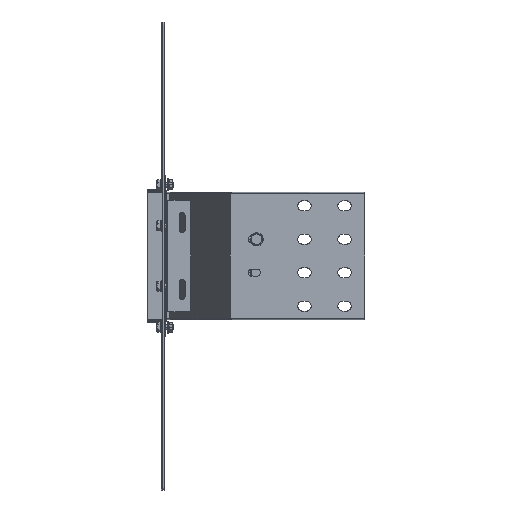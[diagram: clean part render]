
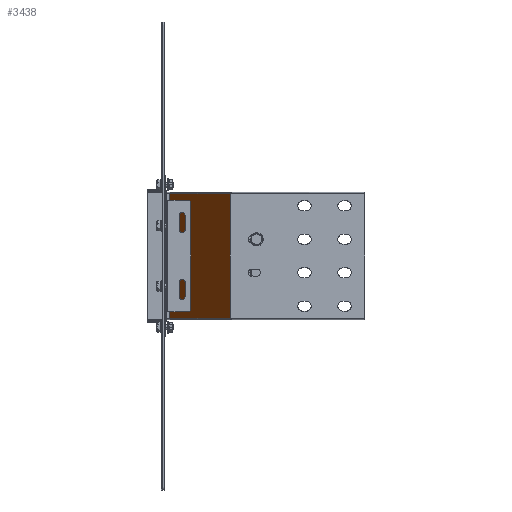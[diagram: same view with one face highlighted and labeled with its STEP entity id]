
A CAD part, front view. The second image highlights one B-rep face of the part: STEP entity #3438.
In plain terms, the highlighted planar face has unit normal (-0.918, -0.397, 0).
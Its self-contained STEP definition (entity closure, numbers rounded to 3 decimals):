
#3430=AXIS2_PLACEMENT_3D('Plane Axis2P3D',#3427,#3428,#3429) ;
#1842=CARTESIAN_POINT('Vertex',(98.751,-216.9,-93.1)) ;
#1856=CARTESIAN_POINT('Vertex',(98.751,-216.9,93.1)) ;
#1859=CARTESIAN_POINT('Line Origine',(98.751,-216.9,0.)) ;
#2644=CARTESIAN_POINT('Vertex',(8.751,-8.74,93.1)) ;
#2647=CARTESIAN_POINT('Line Origine',(53.256,-111.674,93.1)) ;
#2754=CARTESIAN_POINT('Vertex',(8.751,-8.74,-93.1)) ;
#2789=CARTESIAN_POINT('Line Origine',(53.256,-111.674,-93.1)) ;
#2831=CARTESIAN_POINT('Line Origine',(8.751,-8.74,0.)) ;
#3427=CARTESIAN_POINT('Axis2P3D Location',(99.247,-218.046,-93.1)) ;
#1860=DIRECTION('Vector Direction',(0.,0.,1.)) ;
#2648=DIRECTION('Vector Direction',(0.397,-0.918,0.)) ;
#2790=DIRECTION('Vector Direction',(0.397,-0.918,0.)) ;
#2832=DIRECTION('Vector Direction',(0.,0.,1.)) ;
#3428=DIRECTION('Axis2P3D Direction',(-0.918,-0.397,0.)) ;
#3429=DIRECTION('Axis2P3D XDirection',(0.,0.,1.)) ;
#1861=VECTOR('Line Direction',#1860,1.) ;
#2649=VECTOR('Line Direction',#2648,1.) ;
#2791=VECTOR('Line Direction',#2790,1.) ;
#2833=VECTOR('Line Direction',#2832,1.) ;
#3433=ORIENTED_EDGE('',*,*,#2651,.T.) ;
#3434=ORIENTED_EDGE('',*,*,#2835,.F.) ;
#3435=ORIENTED_EDGE('',*,*,#2793,.F.) ;
#3436=ORIENTED_EDGE('',*,*,#1863,.T.) ;
#3438=ADVANCED_FACE('N',(#3437),#3431,.T.) ;
#1863=EDGE_CURVE('',#1843,#1857,#1862,.T.) ;
#2651=EDGE_CURVE('',#1857,#2645,#2650,.F.) ;
#2793=EDGE_CURVE('',#1843,#2755,#2792,.F.) ;
#2835=EDGE_CURVE('',#2755,#2645,#2834,.T.) ;
#3432=EDGE_LOOP('',(#3433,#3434,#3435,#3436)) ;
#3437=FACE_OUTER_BOUND('',#3432,.T.) ;
#1862=LINE('Line',#1859,#1861) ;
#2650=LINE('Line',#2647,#2649) ;
#2792=LINE('Line',#2789,#2791) ;
#2834=LINE('Line',#2831,#2833) ;
#3431=PLANE('',#3430) ;
#1843=VERTEX_POINT('',#1842) ;
#1857=VERTEX_POINT('',#1856) ;
#2645=VERTEX_POINT('',#2644) ;
#2755=VERTEX_POINT('',#2754) ;
